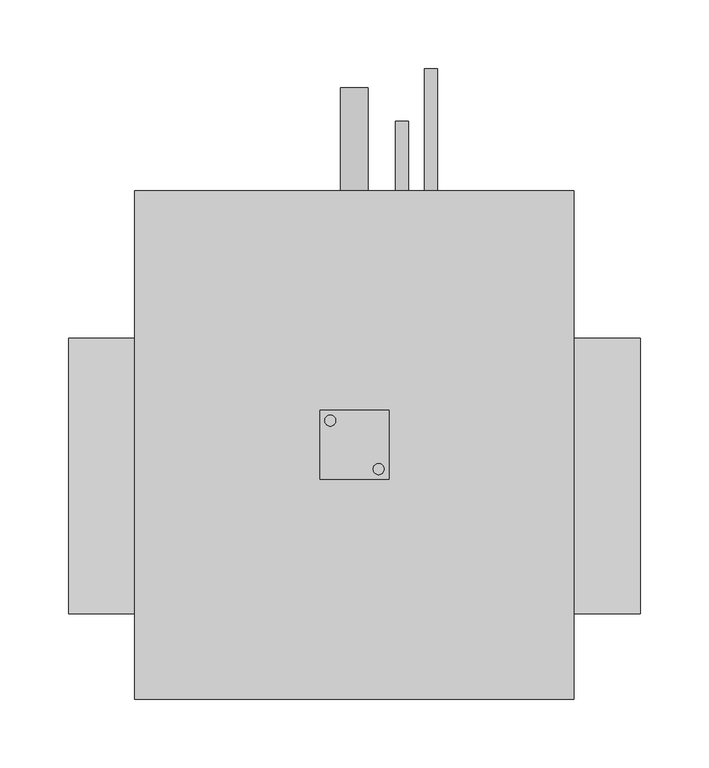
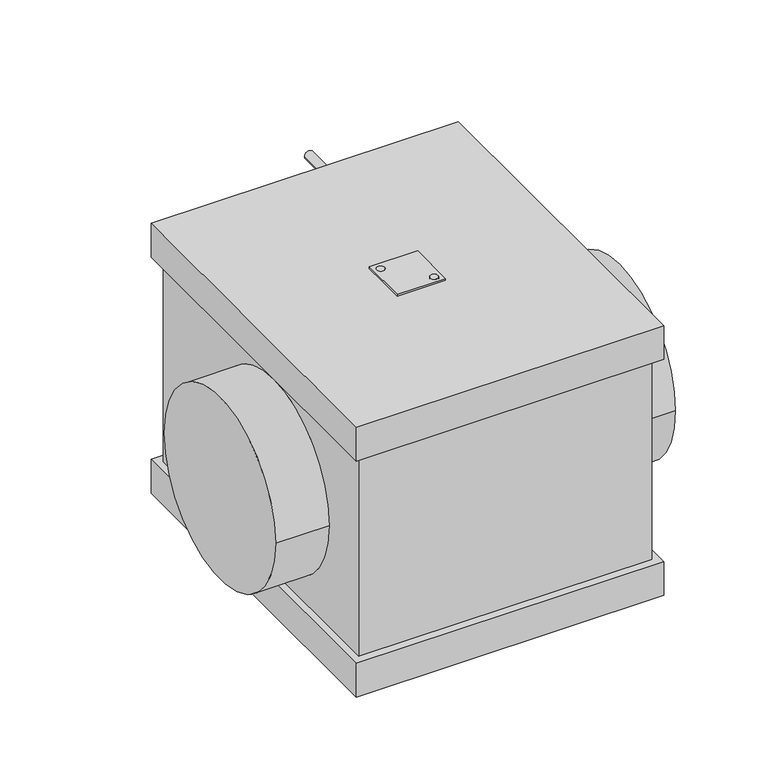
"""IFC4 building model written with IfcOpenShell, lengths in millimetres: proxy geometry, KORF_Охладитель_Фреоновый_Круглый_Правый_KFLO : KFLO 200/2."""

from ifc_helpers import new_model, si_unit, point, frame, frame_2d, origin, place, context, project, spatial, polyline, circle_curve, trimmed, segment, composite_curve, outline, extrude, source, transform, mapped, element, save
from ifc_brep_helpers import plane_surface, cylinder_surface, advanced_brep


def mechanical_equipment_80b6507f(model_context):
    return source(origin(), model_context, "Body", "SolidModel", [
        extrude(outline(composite_curve([segment(trimmed(circle_curve(frame_2d((189.9272934, 40.0745746)), 4.0), [point((185.9272934, 40.0745746))], [point((193.9272934, 40.0745746))], False, "CARTESIAN"), True, "CONTINUOUS"), segment(trimmed(circle_curve(frame_2d((189.9272934, 40.0745746)), 4.0), [point((193.9272934, 40.0745746))], [point((185.9272934, 40.0745746))], False, "CARTESIAN"), True, "CONTINUOUS")], self_intersect=False)), frame((0.0, 0.0, 148.0), z_axis=(0.0, 0.0, 1.0), x_axis=(1.0, 0.0, 0.0)), (0.0, 0.0, 1.0), 2.0),
        extrude(outline(composite_curve([segment(trimmed(circle_curve(frame_2d((225.0727066, 4.9254254)), 4.0), [point((229.0727066, 4.9254254))], [point((221.0727066, 4.9254254))], False, "CARTESIAN"), True, "CONTINUOUS"), segment(trimmed(circle_curve(frame_2d((225.0727066, 4.9254254)), 4.0), [point((221.0727066, 4.9254254))], [point((229.0727066, 4.9254254))], False, "CARTESIAN"), True, "CONTINUOUS")], self_intersect=False)), frame((0.0, 0.0, 148.0), z_axis=(0.0, 0.0, 1.0), x_axis=(1.0, 0.0, 0.0)), (0.0, 0.0, 1.0), 2.0),
        extrude(outline(polyline([(232.5, 47.5), (232.5, -2.5), (182.5, -2.5), (182.5, 47.5), (232.5, 47.5)]), holes=[composite_curve([segment(trimmed(circle_curve(frame_2d((189.9272934, 40.0745746)), 4.0), [point((185.9272934, 40.0745746))], [point((193.9272934, 40.0745746))], True, "CARTESIAN"), True, "CONTINUOUS"), segment(trimmed(circle_curve(frame_2d((189.9272934, 40.0745746)), 4.0), [point((193.9272934, 40.0745746))], [point((185.9272934, 40.0745746))], True, "CARTESIAN"), True, "CONTINUOUS")], self_intersect=False), composite_curve([segment(trimmed(circle_curve(frame_2d((225.0727066, 4.9254254)), 4.0), [point((229.0727066, 4.9254254))], [point((221.0727066, 4.9254254))], True, "CARTESIAN"), True, "CONTINUOUS"), segment(trimmed(circle_curve(frame_2d((225.0727066, 4.9254254)), 4.0), [point((221.0727066, 4.9254254))], [point((229.0727066, 4.9254254))], True, "CARTESIAN"), True, "CONTINUOUS")], self_intersect=False)]), frame((0.0, 0.0, 148.0), z_axis=(0.0, 0.0, 1.0), x_axis=(1.0, 0.0, 0.0)), (0.0, 0.0, 1.0), 2.0),
        advanced_brep(
        [(415.0, -100.0, 0.0), (415.0, 100.0, 0.0), (0.0, -100.0, 0.0), (0.0, 100.0, 0.0), (359.5, -100.0, 0.0), (359.5, 100.0, 0.0), (55.5, 100.0, 0.0), (55.5, -100.0, 0.0), (359.5, -153.5, -111.0), (359.5, 198.5, -111.0), (359.5, 198.5, 111.0), (359.5, -153.5, 111.0), (55.5, 198.5, -111.0), (55.5, -153.5, -111.0), (55.5, -153.5, 111.0), (55.5, 198.5, 111.0), (358.5, -153.5, -111.0), (358.5, -153.5, 111.0), (56.5, -153.5, 111.0), (56.5, -153.5, -111.0), (367.0, 207.0, -148.0), (367.0, -162.0, -148.0), (48.0, -162.0, -148.0), (48.0, 207.0, -148.0), (358.5, 198.5, -111.0), (56.5, 198.5, -111.0), (56.5, 198.5, 111.0), (358.5, 198.5, 111.0), (367.0, -162.0, 148.0), (367.0, 207.0, 148.0), (48.0, 207.0, 148.0), (48.0, -162.0, 148.0), (367.0, 207.0, -111.0), (367.0, -162.0, -111.0), (48.0, -162.0, -111.0), (48.0, 207.0, -111.0), (367.0, 207.0, 111.0), (367.0, -162.0, 111.0), (48.0, -162.0, 111.0), (48.0, 207.0, 111.0)],
        [
            (0, 1, circle_curve(frame((415.0, 0.0, 0.0), z_axis=(1.0, 0.0, 0.0), x_axis=(0.0, 1.0, 0.0)), 100.0)),
            (1, 0, circle_curve(frame((415.0, 0.0, 0.0), z_axis=(1.0, 0.0, 0.0), x_axis=(0.0, 1.0, 0.0)), 100.0)),
            (2, 3, circle_curve(frame((0.0, 0.0, 0.0), z_axis=(-1.0, 0.0, 0.0), x_axis=(0.0, 1.0, 0.0)), 100.0)),
            (3, 2, circle_curve(frame((0.0, 0.0, 0.0), z_axis=(-1.0, 0.0, 0.0), x_axis=(0.0, 1.0, 0.0)), 100.0)),
            (0, 4),
            (4, 5, circle_curve(frame((359.5, 0.0, 0.0), z_axis=(1.0, 0.0, 0.0), x_axis=(0.0, 1.0, 0.0)), 100.0)),
            (5, 1),
            (3, 6),
            (6, 7, circle_curve(frame((55.5, 0.0, 0.0), z_axis=(-1.0, 0.0, 0.0), x_axis=(0.0, 1.0, 0.0)), 100.0)),
            (7, 2),
            (5, 4, circle_curve(frame((359.5, 0.0, 0.0), z_axis=(1.0, 0.0, 0.0), x_axis=(0.0, 1.0, 0.0)), 100.0)),
            (7, 6, circle_curve(frame((55.5, 0.0, 0.0), z_axis=(-1.0, 0.0, 0.0), x_axis=(0.0, 1.0, 0.0)), 100.0)),
            (8, 9),
            (9, 10),
            (10, 11),
            (11, 8),
            (12, 13),
            (13, 14),
            (14, 15),
            (15, 12),
            (16, 8),
            (11, 17),
            (17, 18),
            (18, 14),
            (13, 19),
            (19, 16),
            (20, 21),
            (21, 22),
            (22, 23),
            (23, 20),
            (9, 24),
            (24, 25),
            (25, 12),
            (15, 26),
            (26, 27),
            (27, 10),
            (28, 29),
            (29, 30),
            (30, 31),
            (31, 28),
            (20, 32),
            (32, 33),
            (33, 21),
            (33, 34),
            (34, 22),
            (34, 35),
            (35, 23),
            (32, 35),
            (36, 29),
            (28, 37),
            (37, 36),
            (31, 38),
            (38, 37),
            (30, 39),
            (39, 38),
            (36, 39),
        ],
        [
            plane_surface(frame((415.0, 100.0, 0.0), z_axis=(1.0, 0.0, 0.0), x_axis=(0.0, 0.0, 1.0))),
            plane_surface(frame((0.0, 100.0, 0.0), z_axis=(-1.0, 0.0, 0.0), x_axis=(0.0, 0.0, -1.0))),
            cylinder_surface(frame((0.0, 0.0, 0.0), z_axis=(1.0, 0.0, 0.0), x_axis=(0.0, 1.0, 0.0)), 100.0),
            plane_surface(frame((359.5, -153.5, 148.0), z_axis=(1.0, 0.0, 0.0), x_axis=(0.0, 0.0, -1.0))),
            plane_surface(frame((55.5, -153.5, 148.0), z_axis=(-1.0, 0.0, 0.0), x_axis=(0.0, 0.0, 1.0))),
            plane_surface(frame((359.5, -153.5, 148.0), z_axis=(0.0, -1.0, 0.0), x_axis=(-1.0, 0.0, 0.0))),
            plane_surface(frame((359.5, -153.5, -148.0), z_axis=(0.0, 0.0, -1.0), x_axis=(-1.0, 0.0, 0.0))),
            plane_surface(frame((359.5, 198.5, -148.0), z_axis=(0.0, 1.0, 0.0), x_axis=(-1.0, 0.0, 0.0))),
            plane_surface(frame((359.5, 198.5, 148.0), z_axis=(0.0, 0.0, 1.0), x_axis=(-1.0, 0.0, 0.0))),
            plane_surface(frame((367.0, 207.0, -111.0), z_axis=(1.0, 0.0, 0.0), x_axis=(0.0, -1.0, 0.0))),
            plane_surface(frame((367.0, -162.0, -111.0), z_axis=(0.0, -1.0, 0.0), x_axis=(-1.0, 0.0, 0.0))),
            plane_surface(frame((48.0, -162.0, -111.0), z_axis=(-1.0, 0.0, 0.0), x_axis=(0.0, 1.0, 0.0))),
            plane_surface(frame((56.5, 198.5, -111.0), z_axis=(0.0, 0.0, 1.0), x_axis=(1.0, 0.0, 0.0))),
            plane_surface(frame((48.0, 207.0, -111.0), z_axis=(0.0, 1.0, 0.0), x_axis=(1.0, 0.0, 0.0))),
            plane_surface(frame((367.0, 207.0, 148.0), z_axis=(1.0, 0.0, 0.0), x_axis=(0.0, -1.0, 0.0))),
            plane_surface(frame((367.0, -162.0, 148.0), z_axis=(0.0, -1.0, 0.0), x_axis=(-1.0, 0.0, 0.0))),
            plane_surface(frame((48.0, -162.0, 148.0), z_axis=(-1.0, 0.0, 0.0), x_axis=(0.0, 1.0, 0.0))),
            plane_surface(frame((48.0, 207.0, 148.0), z_axis=(0.0, 1.0, 0.0), x_axis=(1.0, 0.0, 0.0))),
            plane_surface(frame((48.0, 207.0, 111.0), z_axis=(0.0, 0.0, -1.0), x_axis=(1.0, 0.0, 0.0))),
        ],
        [
            (0, [[1, 2]]),
            (1, [[3, 4]]),
            (2, [[-1, 5, 6, 7]]),
            (2, [[-4, 8, 9, 10]]),
            (2, [[-2, -7, 11, -5]]),
            (2, [[-3, -10, 12, -8]]),
            (3, [[13, 14, 15, 16], [-6, -11]]),
            (4, [[17, 18, 19, 20], [-9, -12]]),
            (5, [[21, -16, 22, 23, 24, -18, 25, 26]]),
            (6, [[27, 28, 29, 30]]),
            (7, [[31, 32, 33, -20, 34, 35, 36, -14]]),
            (8, [[37, 38, 39, 40]]),
            (9, [[41, 42, 43, -27]]),
            (10, [[-43, 44, 45, -28]]),
            (11, [[-45, 46, 47, -29]]),
            (12, [[-42, 48, -46, -44], [-13, -21, -26, -25, -17, -33, -32, -31]]),
            (13, [[-41, -30, -47, -48]]),
            (14, [[49, -37, 50, 51]]),
            (15, [[-50, -40, 52, 53]]),
            (16, [[-52, -39, 54, 55]]),
            (17, [[-49, 56, -54, -38]]),
            (18, [[-51, -53, -55, -56], [-15, -36, -35, -34, -19, -24, -23, -22]]),
        ],
    ),
        extrude(outline(composite_curve([segment(trimmed(circle_curve(frame_2d((-94.0, 242.0)), 4.76), [point((-94.0, 237.24))], [point((-94.0, 246.76))], False, "CARTESIAN"), True, "CONTINUOUS"), segment(trimmed(circle_curve(frame_2d((-94.0, 242.0)), 4.76), [point((-94.0, 246.76))], [point((-94.0, 237.24))], False, "CARTESIAN"), True, "CONTINUOUS")], self_intersect=False)), frame((0.0, 198.5, 0.0), z_axis=(0.0, 1.0, 0.0), x_axis=(0.0, 0.0, 1.0)), (0.0, 0.0, 1.0), 59.0),
        extrude(outline(composite_curve([segment(trimmed(circle_curve(frame_2d((94.0, 263.0)), 4.76), [point((94.0, 258.24))], [point((94.0, 267.76))], False, "CARTESIAN"), True, "CONTINUOUS"), segment(trimmed(circle_curve(frame_2d((94.0, 263.0)), 4.76), [point((94.0, 267.76))], [point((94.0, 258.24))], False, "CARTESIAN"), True, "CONTINUOUS")], self_intersect=False)), frame((0.0, 198.5, 0.0), z_axis=(0.0, 1.0, 0.0), x_axis=(0.0, 0.0, 1.0)), (0.0, 0.0, 1.0), 97.0),
        extrude(outline(composite_curve([segment(trimmed(circle_curve(frame_2d((-129.0, 207.5)), 10.0), [point((-129.0, 197.5))], [point((-129.0, 217.5))], False, "CARTESIAN"), True, "CONTINUOUS"), segment(trimmed(circle_curve(frame_2d((-129.0, 207.5)), 10.0), [point((-129.0, 217.5))], [point((-129.0, 197.5))], False, "CARTESIAN"), True, "CONTINUOUS")], self_intersect=False)), frame((0.0, 207.0, 0.0), z_axis=(0.0, 1.0, 0.0), x_axis=(0.0, 0.0, 1.0)), (0.0, 0.0, 1.0), 75.0),
    ])


if __name__ == "__main__":
    model = new_model("IFC4")
    model_context = context("Model", 3, world=origin())
    ifc_project = project(units=[si_unit("LENGTHUNIT", "METRE", prefix="MILLI")], contexts=[model_context])
    site = spatial("IfcSite", under=ifc_project)
    building = spatial("IfcBuilding", under=site)
    placement = place(None, origin())
    mechanical_equipment_shape = mechanical_equipment_80b6507f(model_context)
    element("IfcBuildingElementProxy", 1, Name="KORF_Охладитель_Фреоновый_Круглый_Правый_KFLO : KFLO 200/2", ObjectType="KORF_Охладитель_Фреоновый_Круглый_Правый_KFLO : KFLO 200/2", at=placement, inside=building, context=model_context, shape_type="MappedRepresentation", body=[
        mapped(mechanical_equipment_shape, transform((0.0, 0.0, 0.0), x_axis=(1.0, 0.0, 0.0), y_axis=(0.0, 1.0, 0.0), z_axis=(0.0, 0.0, 1.0))),
    ])
    save(model, "model.ifc")
